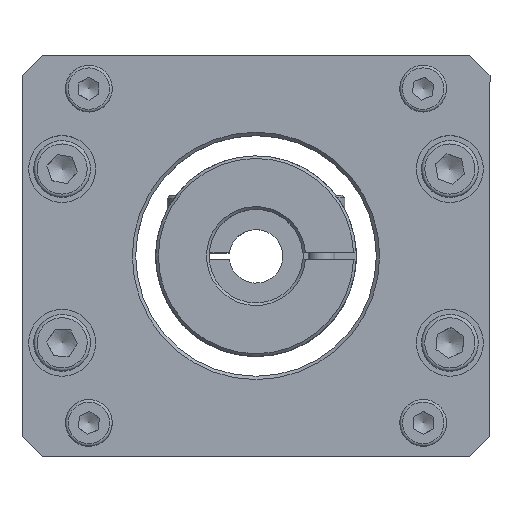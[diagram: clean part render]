
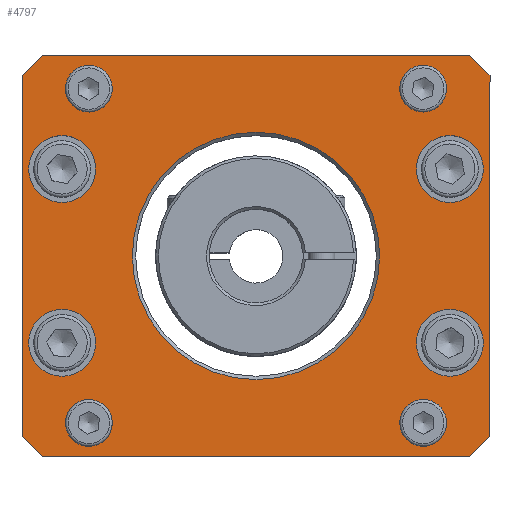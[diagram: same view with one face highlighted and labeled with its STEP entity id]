
A CAD part, top view. The second image highlights one B-rep face of the part: STEP entity #4797.
In plain terms, the highlighted planar face has unit normal (0, 0, 1).
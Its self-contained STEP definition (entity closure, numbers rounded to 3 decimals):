
#276=FACE_BOUND('',#1340,.T.);
#277=FACE_BOUND('',#1341,.T.);
#278=FACE_BOUND('',#1342,.T.);
#279=FACE_BOUND('',#1343,.T.);
#280=FACE_BOUND('',#1344,.T.);
#281=FACE_BOUND('',#1345,.T.);
#282=FACE_BOUND('',#1346,.T.);
#283=FACE_BOUND('',#1347,.T.);
#284=FACE_BOUND('',#1348,.T.);
#579=CIRCLE('',#5351,18.5);
#580=CIRCLE('',#5353,5.);
#581=CIRCLE('',#5354,5.);
#582=CIRCLE('',#5355,5.);
#583=CIRCLE('',#5356,5.);
#584=CIRCLE('',#5357,1.621);
#585=CIRCLE('',#5358,1.621);
#586=CIRCLE('',#5359,1.621);
#587=CIRCLE('',#5360,1.621);
#946=FACE_OUTER_BOUND('',#1339,.T.);
#1339=EDGE_LOOP('',(#4238,#4239,#4240,#4241,#4242,#4243,#4244,#4245));
#1340=EDGE_LOOP('',(#4246));
#1341=EDGE_LOOP('',(#4247));
#1342=EDGE_LOOP('',(#4248));
#1343=EDGE_LOOP('',(#4249));
#1344=EDGE_LOOP('',(#4250));
#1345=EDGE_LOOP('',(#4251));
#1346=EDGE_LOOP('',(#4252));
#1347=EDGE_LOOP('',(#4253));
#1348=EDGE_LOOP('',(#4254));
#1705=LINE('',#8409,#2017);
#1706=LINE('',#8411,#2018);
#1707=LINE('',#8413,#2019);
#1708=LINE('',#8415,#2020);
#1709=LINE('',#8417,#2021);
#1710=LINE('',#8419,#2022);
#1711=LINE('',#8421,#2023);
#1712=LINE('',#8422,#2024);
#2017=VECTOR('',#6713,4.243);
#2018=VECTOR('',#6714,64.);
#2019=VECTOR('',#6715,4.243);
#2020=VECTOR('',#6716,54.);
#2021=VECTOR('',#6717,4.243);
#2022=VECTOR('',#6718,64.);
#2023=VECTOR('',#6719,4.243);
#2024=VECTOR('',#6720,54.);
#2451=VERTEX_POINT('',#8404);
#2452=VERTEX_POINT('',#8407);
#2453=VERTEX_POINT('',#8408);
#2454=VERTEX_POINT('',#8410);
#2455=VERTEX_POINT('',#8412);
#2456=VERTEX_POINT('',#8414);
#2457=VERTEX_POINT('',#8416);
#2458=VERTEX_POINT('',#8418);
#2459=VERTEX_POINT('',#8420);
#2460=VERTEX_POINT('',#8423);
#2461=VERTEX_POINT('',#8425);
#2462=VERTEX_POINT('',#8427);
#2463=VERTEX_POINT('',#8429);
#2464=VERTEX_POINT('',#8431);
#2465=VERTEX_POINT('',#8433);
#2466=VERTEX_POINT('',#8435);
#2467=VERTEX_POINT('',#8437);
#3066=EDGE_CURVE('',#2451,#2451,#579,.T.);
#3067=EDGE_CURVE('',#2452,#2453,#1705,.T.);
#3068=EDGE_CURVE('',#2454,#2452,#1706,.T.);
#3069=EDGE_CURVE('',#2455,#2454,#1707,.T.);
#3070=EDGE_CURVE('',#2456,#2455,#1708,.T.);
#3071=EDGE_CURVE('',#2457,#2456,#1709,.T.);
#3072=EDGE_CURVE('',#2458,#2457,#1710,.T.);
#3073=EDGE_CURVE('',#2459,#2458,#1711,.T.);
#3074=EDGE_CURVE('',#2453,#2459,#1712,.T.);
#3075=EDGE_CURVE('',#2460,#2460,#580,.T.);
#3076=EDGE_CURVE('',#2461,#2461,#581,.T.);
#3077=EDGE_CURVE('',#2462,#2462,#582,.T.);
#3078=EDGE_CURVE('',#2463,#2463,#583,.T.);
#3079=EDGE_CURVE('',#2464,#2464,#584,.T.);
#3080=EDGE_CURVE('',#2465,#2465,#585,.T.);
#3081=EDGE_CURVE('',#2466,#2466,#586,.T.);
#3082=EDGE_CURVE('',#2467,#2467,#587,.T.);
#4238=ORIENTED_EDGE('',*,*,#3067,.F.);
#4239=ORIENTED_EDGE('',*,*,#3068,.F.);
#4240=ORIENTED_EDGE('',*,*,#3069,.F.);
#4241=ORIENTED_EDGE('',*,*,#3070,.F.);
#4242=ORIENTED_EDGE('',*,*,#3071,.F.);
#4243=ORIENTED_EDGE('',*,*,#3072,.F.);
#4244=ORIENTED_EDGE('',*,*,#3073,.F.);
#4245=ORIENTED_EDGE('',*,*,#3074,.F.);
#4246=ORIENTED_EDGE('',*,*,#3075,.T.);
#4247=ORIENTED_EDGE('',*,*,#3076,.T.);
#4248=ORIENTED_EDGE('',*,*,#3077,.T.);
#4249=ORIENTED_EDGE('',*,*,#3078,.T.);
#4250=ORIENTED_EDGE('',*,*,#3079,.T.);
#4251=ORIENTED_EDGE('',*,*,#3080,.T.);
#4252=ORIENTED_EDGE('',*,*,#3081,.T.);
#4253=ORIENTED_EDGE('',*,*,#3082,.T.);
#4254=ORIENTED_EDGE('',*,*,#3066,.F.);
#4531=PLANE('',#5352);
#4797=ADVANCED_FACE('',(#946,#276,#277,#278,#279,#280,#281,#282,#283,#284),
#4531,.T.);
#5351=AXIS2_PLACEMENT_3D('',#8405,#6709,#6710);
#5352=AXIS2_PLACEMENT_3D('',#8406,#6711,#6712);
#5353=AXIS2_PLACEMENT_3D('',#8424,#6721,#6722);
#5354=AXIS2_PLACEMENT_3D('',#8426,#6723,#6724);
#5355=AXIS2_PLACEMENT_3D('',#8428,#6725,#6726);
#5356=AXIS2_PLACEMENT_3D('',#8430,#6727,#6728);
#5357=AXIS2_PLACEMENT_3D('',#8432,#6729,#6730);
#5358=AXIS2_PLACEMENT_3D('',#8434,#6731,#6732);
#5359=AXIS2_PLACEMENT_3D('',#8436,#6733,#6734);
#5360=AXIS2_PLACEMENT_3D('',#8438,#6735,#6736);
#6709=DIRECTION('center_axis',(0.,0.,1.));
#6710=DIRECTION('ref_axis',(0.,-1.,0.));
#6711=DIRECTION('center_axis',(0.,0.,1.));
#6712=DIRECTION('ref_axis',(1.,0.,0.));
#6713=DIRECTION('',(0.707,-0.707,0.));
#6714=DIRECTION('',(1.,0.,0.));
#6715=DIRECTION('',(0.707,0.707,0.));
#6716=DIRECTION('',(0.,1.,0.));
#6717=DIRECTION('',(-0.707,0.707,0.));
#6718=DIRECTION('',(-1.,0.,0.));
#6719=DIRECTION('',(-0.707,-0.707,0.));
#6720=DIRECTION('',(0.,-1.,0.));
#6721=DIRECTION('center_axis',(0.,0.,-1.));
#6722=DIRECTION('ref_axis',(1.,0.,0.));
#6723=DIRECTION('center_axis',(0.,0.,-1.));
#6724=DIRECTION('ref_axis',(1.,0.,0.));
#6725=DIRECTION('center_axis',(0.,0.,-1.));
#6726=DIRECTION('ref_axis',(1.,0.,0.));
#6727=DIRECTION('center_axis',(0.,0.,-1.));
#6728=DIRECTION('ref_axis',(1.,0.,0.));
#6729=DIRECTION('center_axis',(0.,0.,-1.));
#6730=DIRECTION('ref_axis',(1.,0.,0.));
#6731=DIRECTION('center_axis',(0.,0.,-1.));
#6732=DIRECTION('ref_axis',(1.,0.,0.));
#6733=DIRECTION('center_axis',(0.,0.,-1.));
#6734=DIRECTION('ref_axis',(1.,0.,0.));
#6735=DIRECTION('center_axis',(0.,0.,-1.));
#6736=DIRECTION('ref_axis',(1.,0.,0.));
#8404=CARTESIAN_POINT('',(0.,18.5,13.));
#8405=CARTESIAN_POINT('Origin',(0.,0.,13.));
#8406=CARTESIAN_POINT('Origin',(0.,0.,
13.));
#8407=CARTESIAN_POINT('',(32.,30.,13.));
#8408=CARTESIAN_POINT('',(35.,27.,13.));
#8409=CARTESIAN_POINT('',(32.25,29.75,13.));
#8410=CARTESIAN_POINT('',(-32.,30.,13.));
#8411=CARTESIAN_POINT('',(-35.,30.,13.));
#8412=CARTESIAN_POINT('',(-35.,27.,13.));
#8413=CARTESIAN_POINT('',(-32.25,29.75,13.));
#8414=CARTESIAN_POINT('',(-35.,-27.,13.));
#8415=CARTESIAN_POINT('',(-35.,-30.,13.));
#8416=CARTESIAN_POINT('',(-32.,-30.,13.));
#8417=CARTESIAN_POINT('',(-32.25,-29.75,13.));
#8418=CARTESIAN_POINT('',(32.,-30.,13.));
#8419=CARTESIAN_POINT('',(35.,-30.,13.));
#8420=CARTESIAN_POINT('',(35.,-27.,13.));
#8421=CARTESIAN_POINT('',(32.25,-29.75,13.));
#8422=CARTESIAN_POINT('',(35.,30.,13.));
#8423=CARTESIAN_POINT('',(34.,13.,13.));
#8424=CARTESIAN_POINT('Origin',(29.,13.,13.));
#8425=CARTESIAN_POINT('',(34.,-13.,13.));
#8426=CARTESIAN_POINT('Origin',(29.,-13.,13.));
#8427=CARTESIAN_POINT('',(-24.,13.,13.));
#8428=CARTESIAN_POINT('Origin',(-29.,13.,13.));
#8429=CARTESIAN_POINT('',(-24.,-13.,13.));
#8430=CARTESIAN_POINT('Origin',(-29.,-13.,13.));
#8431=CARTESIAN_POINT('',(26.621,25.,13.));
#8432=CARTESIAN_POINT('Origin',(25.,25.,13.));
#8433=CARTESIAN_POINT('',(-23.379,25.,13.));
#8434=CARTESIAN_POINT('Origin',(-25.,25.,13.));
#8435=CARTESIAN_POINT('',(-23.379,-25.,13.));
#8436=CARTESIAN_POINT('Origin',(-25.,-25.,13.));
#8437=CARTESIAN_POINT('',(26.621,-25.,13.));
#8438=CARTESIAN_POINT('Origin',(25.,-25.,13.));
